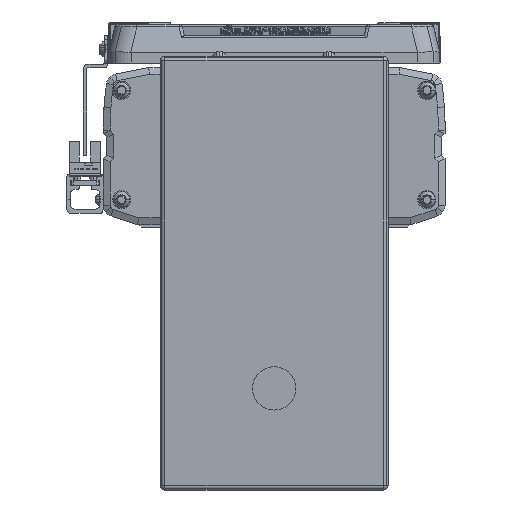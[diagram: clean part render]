
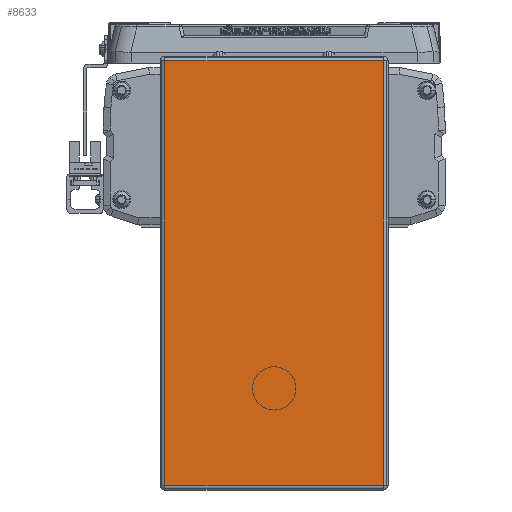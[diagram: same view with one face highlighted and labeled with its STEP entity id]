
A CAD part, left-side view. The second image highlights one B-rep face of the part: STEP entity #8633.
In plain terms, the highlighted planar face has unit normal (-1, 0, 0).
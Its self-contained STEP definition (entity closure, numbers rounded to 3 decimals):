
#8633=ADVANCED_FACE('',(#17589),#17590,.T.);
#17589=FACE_OUTER_BOUND('',#28269,.T.);
#17590=PLANE('',#28270);
#28269=EDGE_LOOP('',(#52674,#52675,#52676,#52677));
#28270=AXIS2_PLACEMENT_3D('',#52678,#52679,#52680);
#52674=ORIENTED_EDGE('',*,*,#58137,.F.);
#52675=ORIENTED_EDGE('',*,*,#58579,.F.);
#52676=ORIENTED_EDGE('',*,*,#56476,.F.);
#52677=ORIENTED_EDGE('',*,*,#64810,.F.);
#52678=CARTESIAN_POINT('',(-45.,0.,-64.2));
#52679=DIRECTION('',(-1.0,0.,0.));
#52680=DIRECTION('',(0.,1.0,0.));
#56476=EDGE_CURVE('',#67724,#67726,#67727,.T.);
#58137=EDGE_CURVE('',#67933,#70541,#70542,.T.);
#58579=EDGE_CURVE('',#67726,#67933,#71235,.T.);
#64810=EDGE_CURVE('',#70541,#67724,#79634,.T.);
#67724=VERTEX_POINT('',#83663);
#67726=VERTEX_POINT('',#83665);
#67727=LINE('',#83666,#83667);
#67933=VERTEX_POINT('',#83959);
#70541=VERTEX_POINT('',#88404);
#70542=LINE('',#88405,#88406);
#71235=LINE('',#89315,#89316);
#79634=LINE('',#101263,#101264);
#83663=CARTESIAN_POINT('',(-45.,-48.,-157.4));
#83665=CARTESIAN_POINT('',(-45.,48.,-157.4));
#83666=CARTESIAN_POINT('',(-45.,0.,-157.4));
#83667=VECTOR('',#103694,10.0);
#83959=CARTESIAN_POINT('',(-45.,48.,29.));
#88404=CARTESIAN_POINT('',(-45.,-48.,29.));
#88405=CARTESIAN_POINT('',(-45.,0.,29.));
#88406=VECTOR('',#105947,10.0);
#89315=CARTESIAN_POINT('',(-45.,48.,-64.2));
#89316=VECTOR('',#106533,10.0);
#101263=CARTESIAN_POINT('',(-45.,-48.,-64.2));
#101264=VECTOR('',#114051,10.0);
#103694=DIRECTION('',(0.0,1.0,0.));
#105947=DIRECTION('',(0.0,-1.0,0.));
#106533=DIRECTION('',(0.,0.,1.0));
#114051=DIRECTION('',(0.,0.,-1.0));
